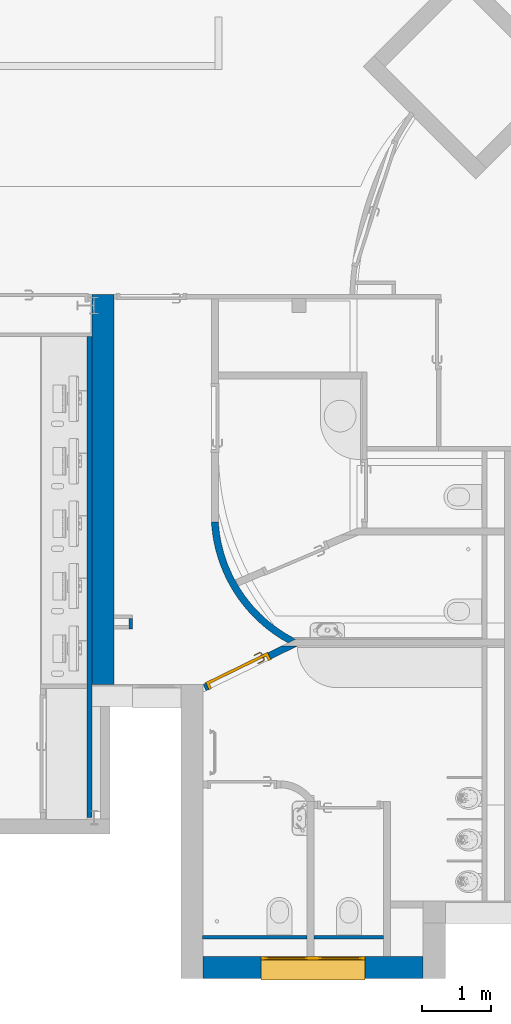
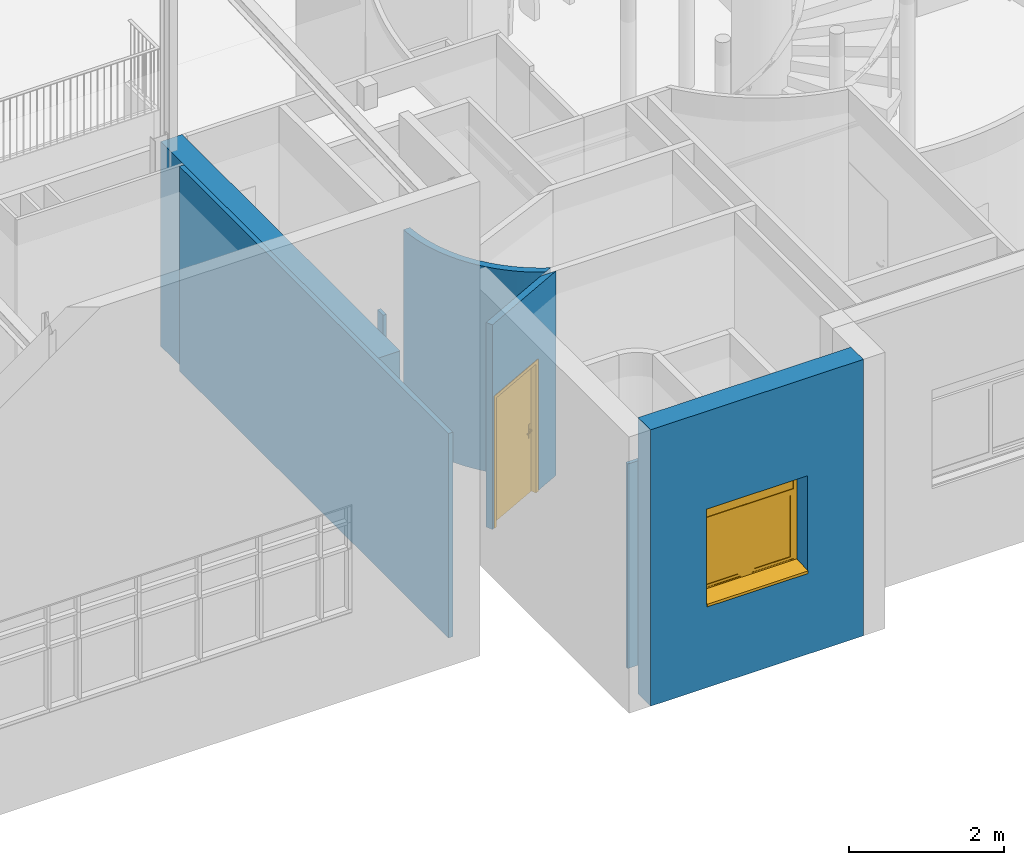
# One storey, part 41 of 137: 7 walls, 1 door, 1 window, 3 openings.
"""IFC2X3 building model written with IfcOpenShell, lengths in centimetres."""

from ifc_helpers import new_model, entity, si_unit, converted_unit, derived_unit, direction, frame, frame_2d, origin, origin_2d_with_axis, place, context, subcontext, project, spatial, polyline, circle_curve, parameter, trimmed, segment, composite_curve, rectangle, outline, extrude, clip, bounded_halfspace, faceted_brep, source, transform, mapped, material, material_list, layer, layer_set, layer_usage, type_object, type_shapes, element, fill, save


model = new_model("IFC2X3")

# Units and contexts
model_context = context("Model", 3, precision=0.001, world=origin(), true_north=direction((6.12303176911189e-17, 1.0)))
body_context = subcontext(model_context, "Body", "Model", "MODEL_VIEW")
ifc_project = project(units=[si_unit("LENGTHUNIT", "METRE", prefix="CENTI"), si_unit("AREAUNIT", "SQUARE_METRE"), si_unit("VOLUMEUNIT", "CUBIC_METRE"), converted_unit("PLANEANGLEUNIT", "DEGREE", entity("IfcRatioMeasure", 0.0174532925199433), si_unit("PLANEANGLEUNIT", "RADIAN"), dimensions=[0, 0, 0, 0, 0, 0, 0]), si_unit("MASSUNIT", "GRAM", prefix="KILO"), si_unit("TIMEUNIT", "SECOND"), si_unit("FREQUENCYUNIT", "HERTZ"), si_unit("THERMODYNAMICTEMPERATUREUNIT", "DEGREE_CELSIUS"), derived_unit("THERMALTRANSMITTANCEUNIT", [(si_unit("MASSUNIT", "GRAM", prefix="KILO"), 1), (si_unit("THERMODYNAMICTEMPERATUREUNIT", "KELVIN"), -1), (si_unit("TIMEUNIT", "SECOND"), -3)]), derived_unit("VOLUMETRICFLOWRATEUNIT", [(si_unit("LENGTHUNIT", "METRE"), 3), (si_unit("TIMEUNIT", "SECOND"), -1)]), si_unit("ELECTRICCURRENTUNIT", "AMPERE"), si_unit("ELECTRICVOLTAGEUNIT", "VOLT"), si_unit("POWERUNIT", "WATT"), si_unit("FORCEUNIT", "NEWTON", prefix="KILO"), si_unit("ILLUMINANCEUNIT", "LUX"), si_unit("LUMINOUSFLUXUNIT", "LUMEN"), si_unit("LUMINOUSINTENSITYUNIT", "CANDELA"), derived_unit("USERDEFINED", [(si_unit("MASSUNIT", "GRAM", prefix="KILO"), -1), (si_unit("LENGTHUNIT", "METRE"), -2), (si_unit("TIMEUNIT", "SECOND"), 3), (si_unit("LUMINOUSFLUXUNIT", "LUMEN"), 1)]), derived_unit("LINEARVELOCITYUNIT", [(si_unit("LENGTHUNIT", "METRE"), 1), (si_unit("TIMEUNIT", "SECOND"), -1)]), si_unit("PRESSUREUNIT", "PASCAL"), derived_unit("USERDEFINED", [(si_unit("LENGTHUNIT", "METRE"), -2), (si_unit("MASSUNIT", "GRAM", prefix="KILO"), 1), (si_unit("TIMEUNIT", "SECOND"), -2)])], contexts=[model_context])

# Site, building, storey
site_placement = place(None, frame((8.62739174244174, -249.285249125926, 0.0)))
site = spatial("IfcSite", under=ifc_project, at=site_placement, Name="Default", CompositionType="ELEMENT")
building_placement = place(site_placement, origin())
building = spatial("IfcBuilding", under=site, at=building_placement, CompositionType="ELEMENT")
storey_placement = place(building_placement, origin())
storey = spatial("IfcBuildingStorey", under=building, at=storey_placement, Name="RDC", CompositionType="ELEMENT", Elevation=-8.82465566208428e-11)

# Wall
ifc_material_1 = material(Name="Maçonnerie - Enduit")
ifc_layer_1 = layer(ifc_material_1, 1.0)
ifc_material_2 = material(Name="Maçonnerie")
ifc_layer_2 = layer(ifc_material_2, 20.0)
ifc_material_3 = material(Name="Laine minérale")
ifc_layer_3 = layer(ifc_material_3, 10.0)
ifc_material_4 = material(Name="Plâtre")
ifc_layer_4 = layer(ifc_material_4, 1.0)
ifc_layer_set_1 = layer_set([ifc_layer_1, ifc_layer_2, ifc_layer_3, ifc_layer_4], Name="Mur de base:END 1 + PAR 20 + ISO 10 + PLA 1")
ifc_layer_usage_1 = layer_usage(ifc_layer_set_1, "AXIS2", "NEGATIVE", 16.0)
wall_type_1 = type_object("IfcWallType", Name="Mur de base:END 1 + PAR 20 + ISO 10 + PLA 1", PredefinedType="STANDARD", material=ifc_layer_set_1)
wall_1_placement = place(storey_placement, frame((2178.90482780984, 215.980208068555, 0.0), z_axis=(0.0, 0.0, 1.0), x_axis=(0.0, 1.0, 0.0)))
element("IfcWallStandardCase", 1, at=wall_1_placement, inside=storey, type_object=wall_type_1, material=ifc_layer_usage_1, Name="Mur de base:END 1 + PAR 20 + ISO 10 + PLA 1", ObjectType="Mur de base:END 1 + PAR 20 + ISO 10 + PLA 1", context=body_context, shape_type="Clipping", body=[
    clip(extrude(rectangle(XDim=562.019791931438, YDim=31.9999999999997, at=frame_2d((281.009895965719, -2.39808173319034e-14), x_axis=(-1.0, 0.0))), origin(), (0.0, 0.0, 1.0), 322.000000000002), bounded_halfspace(frame((562.019791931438, 9.92461973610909, 322.0), z_axis=(0.0, 0.0, -1.0), x_axis=(0.0, 1.0, 0.0)), True, frame((562.019791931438, 9.92461973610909, 322.0)), polyline([(0.0, 0.0), (0.0, 6.07538026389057), (-562.019791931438, 6.07538026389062), (-562.019791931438, 0.0), (0.0, 0.0)]))),
])

# Wall, opening, window
ifc_layer_usage_2 = layer_usage(ifc_layer_set_1, "AXIS2", "NEGATIVE", 16.0)
wall_2_placement = place(storey_placement, frame((2639.90482780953, -192.019791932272, -25.0), z_axis=(0.0, 0.0, 1.0), x_axis=(-1.0, 0.0, 0.0)))
wall_2 = element("IfcWallStandardCase", 2, at=wall_2_placement, inside=storey, type_object=wall_type_1, material=ifc_layer_usage_2, Name="Mur de base:END 1 + PAR 20 + ISO 10 + PLA 1", ObjectType="Mur de base:END 1 + PAR 20 + ISO 10 + PLA 1", context=body_context, shape_type="SweptSolid", body=[
    extrude(rectangle(XDim=316.999999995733, YDim=32.0, at=frame_2d((158.499999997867, 7.105427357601e-15), x_axis=(-1.0, 0.0))), origin(), (0.0, 0.0, 1.0), 434.999999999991),
])
opening_1_placement = place(wall_2_placement, frame((83.4999999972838, -16.0, 131.0)))
opening_1 = element("IfcOpeningElement", 3, at=opening_1_placement, cuts=wall_2, Name="2B_70x115-I_150x40:2B_70x115-I_150x40:1", ObjectType="Opening", context=body_context, shape_type="SweptSolid", body=[
    extrude(rectangle(XDim=150.0, YDim=150.0, at=frame_2d((75.0, 75.0000000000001), x_axis=(1.0, 0.0))), frame((0.0, 0.0, 0.0), z_axis=(0.0, 1.0, 0.0), x_axis=(0.0, 0.0, 1.0)), (0.0, 0.0, 1.0), 32.0),
])
ifc_material_5 = material(Name="Verre")
window_style = type_object("IfcWindowStyle", Name="2B_70x115-I_150x40", ConstructionType="NOTDEFINED", OperationType="NOTDEFINED", ParameterTakesPrecedence=False, Sizeable=False, material=ifc_material_5)
shared_shape_1 = source(origin(), body_context, "Body", "SweptSolid", [
    extrude(rectangle(XDim=5.0, YDim=16.0000000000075, at=origin_2d_with_axis()), frame((75.0, 2.5, 4.99909502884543), z_axis=(0.0, 0.0, 1.0), x_axis=(0.0, 1.0, 0.0)), (0.0, 0.0, 1.0), 105.000904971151),
    extrude(rectangle(XDim=2.0, YDim=53.9999999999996, at=frame_2d((8.88178419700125e-16, 0.0), x_axis=(1.0, 0.0))), frame((114.0, 2.5, 8.99909502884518), z_axis=(0.0, 0.0, 1.0), x_axis=(0.0, 1.0, 0.0)), (0.0, 0.0, 1.0), 97.0009049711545),
    extrude(rectangle(XDim=2.0, YDim=53.9999999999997, at=frame_2d((8.88178419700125e-16, -3.5527136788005e-15), x_axis=(1.0, 0.0))), frame((36.0, 2.5, 8.99909502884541), z_axis=(0.0, 0.0, 1.0), x_axis=(0.0, 1.0, 0.0)), (0.0, 0.0, 1.0), 97.0009049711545),
    extrude(outline(polyline([(-52.5004524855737, -31.0), (52.5004524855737, -31.0), (52.5004524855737, 31.0), (-52.5004524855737, 31.0), (-52.5004524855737, -31.0)]), holes=[polyline([(48.5004524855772, -27.0), (-48.5004524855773, -27.0), (-48.5004524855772, 27.0), (48.5004524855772, 27.0), (48.5004524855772, -27.0)])]), frame((114.0, 0.500000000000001, 57.4995475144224), z_axis=(0.0, 1.0, 0.0), x_axis=(0.0, 0.0, -1.0)), (0.0, 0.0, 1.0), 4.0),
    extrude(outline(polyline([(-52.5004524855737, -31.0), (52.5004524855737, -31.0), (52.5004524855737, 31.0), (-52.5004524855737, 31.0), (-52.5004524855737, -31.0)]), holes=[polyline([(48.5004524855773, -27.0), (-48.5004524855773, -27.0), (-48.5004524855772, 27.0), (48.5004524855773, 27.0), (48.5004524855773, -27.0)])]), frame((36.0, 0.500000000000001, 57.4995475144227), z_axis=(0.0, 1.0, 0.0), x_axis=(0.0, 0.0, -1.0)), (0.0, 0.0, 1.0), 4.0),
    extrude(outline(polyline([(-75.0004524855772, -75.0), (75.0004524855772, -75.0), (75.0004524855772, 75.0), (-75.0004524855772, 75.0), (-75.0004524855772, -75.0)]), holes=[polyline([(70.0004524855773, -70.0), (-70.0004524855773, -70.0), (-70.0004524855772, 70.0), (70.0004524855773, 70.0), (70.0004524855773, -70.0)])]), frame((75.0, 0.0, 74.9995475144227), z_axis=(0.0, 1.0, 0.0), x_axis=(0.0, 0.0, -1.0)), (0.0, 0.0, 1.0), 4.99999999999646),
    extrude(outline(polyline([(-9.76861720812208, -1.51384883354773), (19.2694971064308, -1.51384883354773), (19.2416469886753, -0.970818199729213), (-9.29488305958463, -0.988895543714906), (-9.47415005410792, 2.50651049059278), (-9.97349377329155, 2.48090091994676), (-9.76861720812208, -1.51384883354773)])), frame((0.0, 24.1666666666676, 0.500266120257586), z_axis=(1.0, 0.0, 0.0), x_axis=(0.0, -0.998687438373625, 0.0512191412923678)), (0.0, 0.0, 1.0), 150.0),
    extrude(rectangle(XDim=3.0, YDim=140.0, at=frame_2d((7.7715611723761e-16, -7.105427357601e-15), x_axis=(1.0, 0.0))), frame((75.0, 2.5, 115.0), z_axis=(0.0, 0.0, 1.0), x_axis=(0.0, 1.0, 0.0)), (0.0, 0.0, 1.0), 30.0000000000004),
    extrude(rectangle(XDim=4.99999999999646, YDim=140.0, at=origin_2d_with_axis()), frame((75.0, 2.49999999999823, 110.0), z_axis=(0.0, 0.0, 1.0), x_axis=(0.0, 1.0, 0.0)), (0.0, 0.0, 1.0), 5.00000000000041),
])
type_shapes(window_style, [shared_shape_1])
window_placement = place(opening_1_placement, origin())
window = element("IfcWindow", 4, at=window_placement, inside=storey, type_object=window_style, material=ifc_material_5, Name="2B_70x115-I_150x40:2B_70x115-I_150x40", ObjectType="2B_70x115-I_150x40", OverallHeight=150.0, OverallWidth=150.0, context=body_context, shape_type="MappedRepresentation", body=[
    mapped(shared_shape_1, transform((0.0, 0.0, 0.0), scale=1.0)),
])
fill(opening_1, window)

# Wall
ifc_material_6 = material(Name="Mur par défaut")
ifc_layer_5 = layer(ifc_material_6, 5.0)
ifc_layer_set_2 = layer_set([ifc_layer_5], Name="Mur de base:Int. plâtre 50 mm")
ifc_layer_usage_3 = layer_usage(ifc_layer_set_2, "AXIS2", "NEGATIVE", 2.5)
wall_type_2 = type_object("IfcWallType", Name="Mur de base:Int. plâtre 50 mm", PredefinedType="STANDARD", material=ifc_layer_set_2)
wall_3_placement = place(storey_placement, frame((2218.40482780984, 310.980208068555, 0.0), z_axis=(0.0, 0.0, 1.0), x_axis=(0.0, -1.0, 0.0)))
element("IfcWallStandardCase", 5, at=wall_3_placement, inside=storey, type_object=wall_type_2, material=ifc_layer_usage_3, Name="Mur de base:Int. plâtre 50 mm", ObjectType="Mur de base:Int. plâtre 50 mm", context=body_context, shape_type="SweptSolid", body=[
    extrude(rectangle(XDim=15.0000000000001, YDim=4.99999999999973, at=frame_2d((7.50000000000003, 0.0), x_axis=(-1.0, 0.0))), origin(), (0.0, 0.0, 1.0), 322.000000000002),
])

# Wall, opening, door
ifc_layer_6 = layer(ifc_material_4, 10.0)
ifc_layer_set_3 = layer_set([ifc_layer_6], Name="Mur de base:PLA 10")
ifc_layer_usage_4 = layer_usage(ifc_layer_set_3, "AXIS2", "NEGATIVE", 5.0)
wall_type_3 = type_object("IfcWallType", Name="Mur de base:PLA 10", PredefinedType="STANDARD", material=ifc_layer_set_3)
wall_4_placement = place(storey_placement, frame((2325.09668354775, 211.486237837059, 0.0), z_axis=(0.0, 0.0, 1.0), x_axis=(0.898794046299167, 0.438371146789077, 0.0)))
wall_4 = element("IfcWallStandardCase", 6, at=wall_4_placement, inside=storey, type_object=wall_type_3, material=ifc_layer_usage_4, Name="Mur de base:PLA 10", ObjectType="Mur de base:PLA 10", context=body_context, shape_type="SweptSolid", body=[
    extrude(outline(polyline([(0.0, -5.0), (146.305935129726, -5.0), (125.802896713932, 5.0), (0.0, 5.0), (0.0, -5.0)])), origin(), (0.0, 0.0, 1.0), 322.000000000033),
])
opening_2_placement = place(wall_4_placement, frame((4.49999999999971, -5.0, 0.0)))
opening_2 = element("IfcOpeningElement", 7, at=opening_2_placement, cuts=wall_4, Name="Simple(R)-bois_MU:93x204cm_MU:1", ObjectType="Opening", context=body_context, shape_type="SweptSolid", body=[
    extrude(rectangle(XDim=206.999999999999, YDim=98.9999999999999, at=frame_2d((103.499999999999, 49.5), x_axis=(1.0, 0.0))), frame((0.0, 0.0, 0.0), z_axis=(0.0, 1.0, 0.0), x_axis=(0.0, 0.0, 1.0)), (0.0, 0.0, 1.0), 10.0),
])
ifc_material_7 = material(Name="Porte-Poignée_MU")
ifc_material_8 = material(Name="Porte-Cadre_MU")
ifc_material_9 = material(Name="Porte Panneau_MU")
ifc_material_list_1 = material_list([ifc_material_7, ifc_material_8, ifc_material_9])
ifc_material_list_2 = material_list([ifc_material_7, ifc_material_8, ifc_material_9])
door_style = type_object("IfcDoorStyle", Name="93x204cm_MU", ConstructionType="NOTDEFINED", OperationType="SINGLE_SWING_RIGHT", ParameterTakesPrecedence=False, Sizeable=False, material=ifc_material_list_2)
shared_shape_2 = source(origin(), body_context, "Body", "Brep", [
    faceted_brep([(8.29747013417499, 3.69999999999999, 100.778044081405), (7.89999999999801, 3.69999999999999, 100.699999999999), (7.89999999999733, 3.69999999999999, 99.2999999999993), (8.2974701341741, 3.69999999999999, 99.2219559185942), (8.70252986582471, 3.69999999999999, 99.2219559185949), (9.10000000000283, 3.69999999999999, 99.3000000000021), (9.10000000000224, 3.69999999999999, 100.699999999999), (8.70252986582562, 3.69999999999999, 100.778044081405), (9.10000000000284, 5.94852045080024, 99.3000000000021), (9.10000000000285, 5.94852045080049, 100.699999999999), (8.70252986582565, 6.1131579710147, 100.778044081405), (10.0838906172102, 7.49451872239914, 100.778044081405), (9.91610938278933, 7.89957845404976, 100.778044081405), (8.29747013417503, 6.2809392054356, 100.778044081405), (19.0684749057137, 6.84673156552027, 100.778044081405), (19.3548953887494, 7.13315204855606, 100.778044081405), (18.5884689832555, 7.89957845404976, 100.778044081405), (18.4206877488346, 7.49451872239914, 100.778044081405), (7.89999999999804, 6.44557672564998, 100.699999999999), (7.89999999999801, 6.44557672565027, 99.2999999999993), (8.29747013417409, 6.28093920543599, 99.2219559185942), (9.91610938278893, 7.8995784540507, 99.2219559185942), (10.0838906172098, 7.49451872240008, 99.2219559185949), (8.70252986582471, 6.11315797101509, 99.2219559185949), (19.35489538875, 7.1331520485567, 99.2219559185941), (19.0684749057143, 6.84673156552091, 99.2219559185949), (18.420687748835, 7.49451872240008, 99.2219559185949), (18.5884689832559, 7.8995784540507, 99.2219559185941), (10.2485281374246, 7.09704858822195, 99.3000000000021), (10.2485281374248, 7.09704858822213, 100.699999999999), (9.75147186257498, 8.29704858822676, 100.699999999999), (9.75147186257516, 8.29704858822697, 99.2999999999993), (14.2522904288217, 7.09704858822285, 99.3000000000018), (18.2560502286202, 7.09704858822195, 99.3000000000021), (18.2560502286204, 7.09704858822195, 100.699999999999), (14.2522891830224, 7.09704858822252, 100.699999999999), (14.2522891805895, 7.71249275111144, 100.787811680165), (18.7531065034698, 8.29704858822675, 100.699999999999), (14.7600577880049, 8.29704858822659, 100.699999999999), (18.7531065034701, 8.29704858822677, 99.2999999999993), (13.7445206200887, 8.29704858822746, 99.2999999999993), (14.2522892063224, 7.71249274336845, 99.2121883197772), (18.787421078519, 6.56567773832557, 99.3000000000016), (19.635949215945, 7.41420587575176, 99.2999999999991), (19.6359492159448, 7.4142058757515, 100.699999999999), (18.7874210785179, 6.5656777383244, 100.699999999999)], [[[0, 1, 2, 3, 4, 5, 6, 7]], [[6, 5, 8, 9]], [[9, 10, 7, 6]], [[10, 11, 12, 13, 0, 7]], [[14, 15, 16, 17]], [[13, 18, 1, 0]], [[2, 1, 18, 19]], [[19, 20, 3, 2]], [[20, 21, 22, 23, 4, 3]], [[24, 25, 26, 27]], [[23, 8, 5, 4]], [[9, 8, 28, 29]], [[29, 11, 10, 9]], [[12, 30, 18, 13]], [[19, 18, 30, 31]], [[31, 21, 20, 19]], [[22, 28, 8, 23]], [[29, 28, 32, 33, 34, 35]], [[11, 35, 36]], [[16, 37, 38]], [[30, 12, 38]], [[38, 12, 36]], [[36, 35, 17]], [[17, 16, 36]], [[35, 11, 29]], [[34, 17, 35]], [[11, 36, 12]], [[38, 36, 16]], [[31, 30, 38, 37, 39, 40]], [[40, 41, 21]], [[41, 40, 27]], [[21, 31, 40]], [[39, 27, 40]], [[41, 32, 22]], [[22, 21, 41]], [[26, 32, 41]], [[28, 22, 32]], [[32, 26, 33]], [[26, 41, 27]], [[42, 25, 24, 43, 44, 15, 14, 45]], [[34, 33, 42, 45]], [[45, 14, 17, 34]], [[15, 44, 37, 16]], [[39, 37, 44, 43]], [[43, 24, 27, 39]], [[25, 42, 33, 26]]]),
    faceted_brep([(8.29747013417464, -1.30000000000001, 100.778044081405), (8.70252986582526, -1.30000000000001, 100.778044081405), (9.10000000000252, -1.30000000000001, 100.699999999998), (9.10000000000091, -1.30000000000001, 99.3000000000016), (8.70252986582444, -1.30000000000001, 99.2219559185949), (8.29747013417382, -1.30000000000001, 99.2219559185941), (7.8999999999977, -1.30000000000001, 99.2999999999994), (7.89999999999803, -1.30000000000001, 100.699999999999), (7.89999999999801, -4.06509507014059, 100.699999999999), (8.29747013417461, -3.90045754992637, 100.778044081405), (9.90235851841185, -5.50534593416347, 100.778044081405), (10.0701397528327, -5.10028620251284, 100.778044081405), (8.70252986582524, -3.73267631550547, 100.778044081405), (19.3521810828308, -4.73891952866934, 100.778044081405), (19.0657605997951, -4.4524990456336, 100.778044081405), (18.4179734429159, -5.10028620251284, 100.778044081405), (18.5857546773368, -5.50534593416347, 100.778044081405), (9.10000000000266, -3.56803879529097, 100.699999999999), (9.10000000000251, -3.56803879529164, 99.3000000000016), (8.70252986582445, -3.7326763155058, 99.2219559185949), (10.0701397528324, -5.10028620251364, 99.2219559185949), (9.90235851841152, -5.50534593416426, 99.2219559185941), (8.29747013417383, -3.9004575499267, 99.2219559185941), (19.0657605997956, -4.45249904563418, 99.2219559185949), (19.3521810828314, -4.73891952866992, 99.2219559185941), (18.5857546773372, -5.50534593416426, 99.2219559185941), (18.4179734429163, -5.10028620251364, 99.2219559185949), (7.89999999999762, -4.06509507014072, 99.2999999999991), (9.73772099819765, -5.90281606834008, 100.699999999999), (10.2347772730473, -4.70281606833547, 100.699999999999), (10.2347772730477, -4.70281606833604, 99.3000000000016), (9.73772099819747, -5.90281606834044, 99.2999999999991), (13.7307697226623, -5.90281606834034, 100.699999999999), (14.2440566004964, -5.31828027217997, 100.787811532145), (18.7503921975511, -5.90281606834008, 100.699999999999), (14.2440565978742, -4.70281606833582, 100.699999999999), (18.2533359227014, -4.70281606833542, 100.699999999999), (18.2533359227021, -4.70281606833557, 99.3000000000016), (14.2440563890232, -4.70281606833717, 99.3000000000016), (14.2440565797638, -5.31828027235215, 99.2121884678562), (18.7503921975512, -5.90281606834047, 99.2999999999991), (14.7573433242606, -5.90281606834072, 99.2999999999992), (18.7847067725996, -4.1714452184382, 100.699999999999), (19.6332349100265, -5.01997335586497, 100.699999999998), (19.633234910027, -5.01997335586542, 99.2999999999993), (18.7847067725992, -4.17144521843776, 99.3000000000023)], [[[0, 1, 2, 3, 4, 5, 6, 7]], [[8, 9, 0, 7]], [[9, 10, 11, 12, 1, 0]], [[13, 14, 15, 16]], [[12, 17, 2, 1]], [[3, 2, 17, 18]], [[18, 19, 4, 3]], [[19, 20, 21, 22, 5, 4]], [[23, 24, 25, 26]], [[22, 27, 6, 5]], [[7, 6, 27, 8]], [[28, 10, 9, 8]], [[11, 29, 17, 12]], [[18, 17, 29, 30]], [[30, 20, 19, 18]], [[21, 31, 27, 22]], [[8, 27, 31, 28]], [[32, 33, 10]], [[33, 32, 16]], [[10, 28, 32]], [[34, 16, 32]], [[33, 35, 11]], [[11, 10, 33]], [[15, 35, 33]], [[29, 11, 35]], [[35, 15, 36]], [[15, 33, 16]], [[30, 29, 35, 36, 37, 38]], [[20, 38, 39]], [[25, 40, 41]], [[31, 21, 41]], [[41, 21, 39]], [[39, 38, 26]], [[26, 25, 39]], [[38, 20, 30]], [[37, 26, 38]], [[20, 39, 21]], [[41, 39, 25]], [[28, 31, 41, 40, 34, 32]], [[42, 14, 13, 43, 44, 24, 23, 45]], [[43, 13, 16, 34]], [[14, 42, 36, 15]], [[37, 36, 42, 45]], [[45, 23, 26, 37]], [[24, 44, 40, 25]], [[34, 40, 44, 43]]]),
    faceted_brep([(9.53527618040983, 3.19999999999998, 86.6003983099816), (10.4999999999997, 3.19999999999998, 87.0), (10.4999999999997, 3.19999999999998, 108.0), (9.53527618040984, 3.19999999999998, 108.399601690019), (8.49999999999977, 3.19999999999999, 108.535898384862), (7.46472381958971, 3.19999999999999, 108.399601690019), (6.49999999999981, 3.19999999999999, 108.0), (6.49999999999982, 3.19999999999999, 87.0), (7.4647238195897, 3.19999999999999, 86.6003983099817), (8.49999999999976, 3.19999999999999, 86.4641016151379), (9.53527618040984, 3.69999999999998, 108.399601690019), (10.4999999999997, 3.69999999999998, 108.0), (10.4999999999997, 3.69999999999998, 87.0), (9.53527618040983, 3.69999999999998, 86.6003983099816), (8.49999999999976, 3.69999999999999, 86.4641016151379), (7.4647238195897, 3.69999999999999, 86.6003983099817), (6.49999999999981, 3.69999999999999, 87.0), (6.49999999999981, 3.69999999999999, 108.0), (7.46472381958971, 3.69999999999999, 108.399601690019), (8.49999999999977, 3.69999999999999, 108.535898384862)], [[[0, 1, 2, 3, 4, 5, 6, 7, 8, 9]], [[10, 11, 12, 13, 14, 15, 16, 17, 18, 19]], [[11, 10, 3, 2]], [[3, 10, 19, 4]], [[19, 18, 5, 4]], [[18, 17, 6, 5]], [[7, 6, 17, 16]], [[16, 15, 8, 7]], [[8, 15, 14, 9]], [[14, 13, 0, 9]], [[13, 12, 1, 0]], [[2, 1, 12, 11]]]),
    faceted_brep([(9.53527618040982, -1.30000000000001, 86.6003983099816), (10.4999999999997, -1.30000000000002, 87.0), (10.4999999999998, -1.30000000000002, 108.0), (9.53527618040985, -1.30000000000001, 108.399601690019), (8.49999999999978, -1.30000000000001, 108.535898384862), (7.46472381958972, -1.30000000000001, 108.399601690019), (6.49999999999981, -1.3, 108.0), (6.49999999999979, -1.3, 87.0), (7.46472381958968, -1.30000000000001, 86.6003983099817), (8.49999999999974, -1.30000000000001, 86.4641016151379), (9.53527618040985, -0.800000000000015, 108.399601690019), (10.4999999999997, -0.800000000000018, 108.0), (10.4999999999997, -0.800000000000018, 87.0), (9.53527618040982, -0.800000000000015, 86.6003983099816), (8.49999999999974, -0.800000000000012, 86.4641016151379), (7.46472381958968, -0.800000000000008, 86.6003983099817), (6.49999999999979, -0.800000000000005, 87.0), (6.49999999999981, -0.800000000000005, 108.0), (7.46472381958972, -0.800000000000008, 108.399601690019), (8.49999999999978, -0.800000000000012, 108.535898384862)], [[[0, 1, 2, 3, 4, 5, 6, 7, 8, 9]], [[10, 11, 12, 13, 14, 15, 16, 17, 18, 19]], [[16, 15, 8, 7]], [[8, 15, 14, 9]], [[14, 13, 0, 9]], [[13, 12, 1, 0]], [[2, 1, 12, 11]], [[11, 10, 3, 2]], [[3, 10, 19, 4]], [[19, 18, 5, 4]], [[18, 17, 6, 5]], [[7, 6, 17, 16]]]),
    faceted_brep([(0.0, 0.0, 0.0), (0.0, 10.0, 0.0), (-1.0, 10.0, 0.0), (-1.0, 10.8000000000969, 0.0), (4.0, 10.8000000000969, 0.0), (4.0, 3.2, 0.0), (3.0, 3.2, 0.0), (3.0, -0.799999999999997, 0.0), (-1.0, -0.799999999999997, 0.0), (-1.0, 0.0, 0.0), (0.0, 0.0, 207.0), (0.0, 10.0, 207.0), (99.0, 10.0, 207.0), (99.0, 10.0, 0.0), (100.0, 10.0, 0.0), (100.0, 10.0, 208.0), (-1.0, 10.0, 208.0), (-1.0, 10.8000000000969, 208.0), (100.0, 10.8000000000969, 208.0), (100.0, 10.8000000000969, 0.0), (95.0, 10.8000000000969, 0.0), (95.0, 10.8000000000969, 203.0), (4.0, 10.8000000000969, 203.0), (4.0, 3.2, 203.0), (95.0, 3.2, 203.0), (95.0, 3.2, 0.0), (96.0, 3.2, 0.0), (96.0, 3.2, 204.0), (3.0, 3.2, 204.0), (3.0, -0.799999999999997, 204.0), (96.0, -0.799999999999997, 204.0), (96.0, -0.799999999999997, 0.0), (100.0, -0.799999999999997, 0.0), (100.0, -0.799999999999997, 208.0), (-1.0, -0.799999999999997, 208.0), (-1.0, 0.0, 208.0), (100.0, 0.0, 208.0), (100.0, 0.0, 0.0), (99.0, 0.0, 0.0), (99.0, 0.0, 207.0)], [[[0, 1, 2, 3, 4, 5, 6, 7, 8, 9]], [[1, 0, 10, 11]], [[2, 1, 11, 12, 13, 14, 15, 16]], [[3, 2, 16, 17]], [[4, 3, 17, 18, 19, 20, 21, 22]], [[5, 4, 22, 23]], [[6, 5, 23, 24, 25, 26, 27, 28]], [[7, 6, 28, 29]], [[8, 7, 29, 30, 31, 32, 33, 34]], [[9, 8, 34, 35]], [[0, 9, 35, 36, 37, 38, 39, 10]], [[12, 39, 38, 13]], [[38, 37, 32, 31, 26, 25, 20, 19, 14, 13]], [[18, 15, 14, 19]], [[24, 21, 20, 25]], [[30, 27, 26, 31]], [[36, 33, 32, 37]], [[11, 10, 39, 12]], [[17, 16, 15, 18]], [[23, 22, 21, 24]], [[29, 28, 27, 30]], [[35, 34, 33, 36]]]),
    faceted_brep([(3.0, -0.799999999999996, 204.0), (3.0, -0.799999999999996, 0.0), (96.0, -0.799999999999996, 0.0), (96.0, -0.799999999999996, 204.0), (3.0, 3.2, 204.0), (96.0, 3.2, 204.0), (96.0, 3.2, 0.0), (3.0, 3.2, 0.0)], [[[0, 1, 2, 3]], [[4, 5, 6, 7]], [[1, 0, 4, 7]], [[2, 1, 7, 6]], [[3, 2, 6, 5]], [[0, 3, 5, 4]]]),
])
type_shapes(door_style, [shared_shape_2])
door_placement = place(opening_2_placement, frame((99.0, 10.0, 0.0), z_axis=(0.0, 0.0, 1.0), x_axis=(-1.0, 0.0, 0.0)))
door = element("IfcDoor", 8, at=door_placement, inside=storey, type_object=door_style, material=ifc_material_list_1, Name="Simple(R)-bois_MU:93x204cm_MU", ObjectType="93x204cm_MU", OverallHeight=206.999999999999, OverallWidth=98.9999999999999, context=body_context, shape_type="MappedRepresentation", body=[
    mapped(shared_shape_2, transform((0.0, 0.0, 0.0), scale=1.0)),
])
fill(opening_2, door)

# Wall
ifc_layer_usage_5 = layer_usage(ifc_layer_set_3, "AXIS2", "POSITIVE", -5.0)
wall_5_placement = place(storey_placement, frame((2454.24243362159, 276.656561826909, 0.0), z_axis=(0.0, 0.0, 1.0), x_axis=(0.0, 1.0, 0.0)))
element("IfcWallStandardCase", 9, at=wall_5_placement, inside=storey, type_object=wall_type_3, material=ifc_layer_usage_5, Name="Mur de base:PLA 10", ObjectType="Mur de base:PLA 10", context=body_context, shape_type="SweptSolid", body=[
    extrude(outline(composite_curve([segment(trimmed(circle_curve(frame_2d((185.601703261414, -92.8142990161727), x_axis=(1.0, 0.0)), 212.515026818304), [parameter(93.3498930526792)], [parameter(151.395227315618)], True, "PARAMETER"), True, "CONTINUOUS"), segment(polyline([(-0.974397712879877, 8.93045597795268), (4.47200634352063, -2.23632718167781)]), True, "CONTINUOUS"), segment(trimmed(circle_curve(frame_2d((185.601703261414, -92.8142990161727), x_axis=(1.0, 0.0)), 202.515026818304), [parameter(93.4316279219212)], [parameter(153.431627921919)], True, "PARAMETER"), False, "CONTINUOUS"), segment(polyline([(173.479679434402, 109.337605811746), (173.183736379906, 119.337605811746)]), True, "CONTINUOUS")], self_intersect=False)), origin(), (0.0, 0.0, 1.0), 322.000000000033),
])

# Wall, opening
ifc_layer_7 = layer(ifc_material_4, 5.0)
ifc_layer_set_4 = layer_set([ifc_layer_7], Name="Mur de base:PLA 5")
ifc_layer_usage_6 = layer_usage(ifc_layer_set_4, "AXIS2", "NEGATIVE", 2.5)
wall_type_4 = type_object("IfcWallType", Name="Mur de base:PLA 5", PredefinedType="STANDARD", material=ifc_layer_set_4)
wall_6_placement = place(storey_placement, frame((2582.9048278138, -148.519791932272, 0.0), z_axis=(0.0, 0.0, 1.0), x_axis=(-1.0, 0.0, 0.0)))
wall_6 = element("IfcWallStandardCase", 10, at=wall_6_placement, inside=storey, type_object=wall_type_4, material=ifc_layer_usage_6, Name="Mur de base:PLA 5", ObjectType="Mur de base:PLA 5", context=body_context, shape_type="SweptSolid", body=[
    extrude(rectangle(XDim=261.0, YDim=5.0, at=frame_2d((130.5, 3.10862446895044e-15), x_axis=(-1.0, 0.0))), origin(), (0.0, 0.0, 1.0), 322.000000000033),
])
opening_3_placement = place(storey_placement, frame((2582.9048278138, -148.519791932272, 0.0), z_axis=(0.0, 0.0, 1.0), x_axis=(-1.0, 0.0, 0.0)))
element("IfcOpeningElement", 11, at=opening_3_placement, cuts=wall_6, Name="Mur de base:PLA 5:1", ObjectType="Opening", context=body_context, shape_type="SweptSolid", body=[
    extrude(rectangle(XDim=322.000000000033, YDim=5.0, at=frame_2d((2.8421709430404e-14, 0.0), x_axis=(1.0, 0.0))), frame((110.0, 0.0, 161.0), z_axis=(-1.0, 0.0, 0.0), x_axis=(0.0, 0.0, 1.0)), (0.0, 0.0, 1.0), 9.99999999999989),
])

# Wall
ifc_layer_8 = layer(ifc_material_6, 7.0)
ifc_layer_set_5 = layer_set([ifc_layer_8], Name="Mur de base:Int. plâtre 70 mm")
ifc_layer_usage_7 = layer_usage(ifc_layer_set_5, "AXIS2", "NEGATIVE", 3.5)
wall_type_5 = type_object("IfcWallType", Name="Mur de base:Int. plâtre 70 mm", PredefinedType="STANDARD", material=ifc_layer_set_5)
wall_7_placement = place(storey_placement, frame((2159.40482780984, 23.9802080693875, 0.0), z_axis=(0.0, 0.0, 1.0), x_axis=(0.0, 1.0, 0.0)))
element("IfcWallStandardCase", 12, at=wall_7_placement, inside=storey, type_object=wall_type_5, material=ifc_layer_usage_7, Name="Mur de base:Int. plâtre 70 mm", ObjectType="Mur de base:Int. plâtre 70 mm", context=body_context, shape_type="Clipping", body=[
    clip(extrude(rectangle(XDim=693.519791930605, YDim=7.00000000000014, at=frame_2d((346.759895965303, 1.31006316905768e-14), x_axis=(-1.0, 0.0))), origin(), (0.0, 0.0, 1.0), 322.000000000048), bounded_halfspace(frame((0.0, -3.50000000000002, 322.0), z_axis=(0.0, 0.0, -1.0), x_axis=(0.0, 1.0, 0.0)), True, frame((0.0, -3.50000000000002, 322.0)), polyline([(0.0, 0.0), (693.519791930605, 0.0), (693.519791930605, 7.0), (192.817829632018, 7.0), (185.817829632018, 7.0), (0.0, 7.0), (0.0, 0.0)]))),
])

save(model, "model.ifc")
